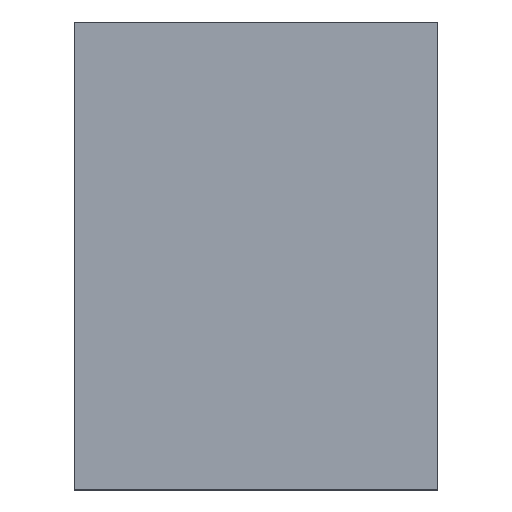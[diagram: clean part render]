
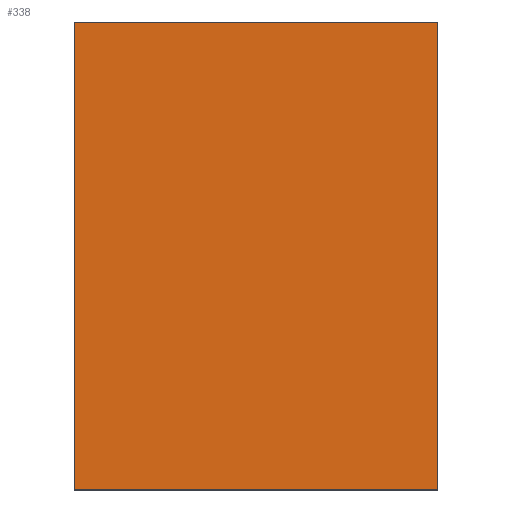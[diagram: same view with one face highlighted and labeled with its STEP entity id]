
A CAD part, top view. The second image highlights one B-rep face of the part: STEP entity #338.
In plain terms, the highlighted planar face has unit normal (0, 0, 1).
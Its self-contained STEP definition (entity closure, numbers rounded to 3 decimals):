
#24 = VERTEX_POINT('',#25);
#25 = CARTESIAN_POINT('',(-700.,-900.,1300.));
#32 = PLANE('',#33);
#33 = AXIS2_PLACEMENT_3D('',#34,#35,#36);
#34 = CARTESIAN_POINT('',(-700.,-900.,1290.));
#35 = DIRECTION('',(1.,0.,-0.));
#36 = DIRECTION('',(0.,0.,1.));
#44 = PLANE('',#45);
#45 = AXIS2_PLACEMENT_3D('',#46,#47,#48);
#46 = CARTESIAN_POINT('',(-700.,-900.,1290.));
#47 = DIRECTION('',(-0.,1.,0.));
#48 = DIRECTION('',(0.,0.,1.));
#85 = VERTEX_POINT('',#86);
#86 = CARTESIAN_POINT('',(-700.,900.,1300.));
#100 = PLANE('',#101);
#101 = AXIS2_PLACEMENT_3D('',#102,#103,#104);
#102 = CARTESIAN_POINT('',(-700.,900.,1290.));
#103 = DIRECTION('',(-0.,1.,0.));
#104 = DIRECTION('',(0.,0.,1.));
#112 = EDGE_CURVE('',#24,#85,#113,.T.);
#113 = SURFACE_CURVE('',#114,(#118,#125),.PCURVE_S1.);
#114 = LINE('',#115,#116);
#115 = CARTESIAN_POINT('',(-700.,-900.,1300.));
#116 = VECTOR('',#117,1.);
#117 = DIRECTION('',(-0.,1.,0.));
#118 = PCURVE('',#32,#119);
#119 = DEFINITIONAL_REPRESENTATION('',(#120),#124);
#120 = LINE('',#121,#122);
#121 = CARTESIAN_POINT('',(10.,0.));
#122 = VECTOR('',#123,1.);
#123 = DIRECTION('',(0.,-1.));
#124 = ( GEOMETRIC_REPRESENTATION_CONTEXT(2) 
PARAMETRIC_REPRESENTATION_CONTEXT() REPRESENTATION_CONTEXT('2D SPACE',''
  ) );
#125 = PCURVE('',#126,#131);
#126 = PLANE('',#127);
#127 = AXIS2_PLACEMENT_3D('',#128,#129,#130);
#128 = CARTESIAN_POINT('',(-700.,-900.,1300.));
#129 = DIRECTION('',(0.,0.,1.));
#130 = DIRECTION('',(1.,0.,-0.));
#131 = DEFINITIONAL_REPRESENTATION('',(#132),#136);
#132 = LINE('',#133,#134);
#133 = CARTESIAN_POINT('',(0.,0.));
#134 = VECTOR('',#135,1.);
#135 = DIRECTION('',(0.,1.));
#136 = ( GEOMETRIC_REPRESENTATION_CONTEXT(2) 
PARAMETRIC_REPRESENTATION_CONTEXT() REPRESENTATION_CONTEXT('2D SPACE',''
  ) );
#144 = VERTEX_POINT('',#145);
#145 = CARTESIAN_POINT('',(700.,-900.,1300.));
#152 = PLANE('',#153);
#153 = AXIS2_PLACEMENT_3D('',#154,#155,#156);
#154 = CARTESIAN_POINT('',(700.,-900.,1290.));
#155 = DIRECTION('',(1.,0.,-0.));
#156 = DIRECTION('',(0.,0.,1.));
#195 = VERTEX_POINT('',#196);
#196 = CARTESIAN_POINT('',(700.,900.,1300.));
#217 = EDGE_CURVE('',#144,#195,#218,.T.);
#218 = SURFACE_CURVE('',#219,(#223,#230),.PCURVE_S1.);
#219 = LINE('',#220,#221);
#220 = CARTESIAN_POINT('',(700.,-900.,1300.));
#221 = VECTOR('',#222,1.);
#222 = DIRECTION('',(-0.,1.,0.));
#223 = PCURVE('',#152,#224);
#224 = DEFINITIONAL_REPRESENTATION('',(#225),#229);
#225 = LINE('',#226,#227);
#226 = CARTESIAN_POINT('',(10.,0.));
#227 = VECTOR('',#228,1.);
#228 = DIRECTION('',(0.,-1.));
#229 = ( GEOMETRIC_REPRESENTATION_CONTEXT(2) 
PARAMETRIC_REPRESENTATION_CONTEXT() REPRESENTATION_CONTEXT('2D SPACE',''
  ) );
#230 = PCURVE('',#126,#231);
#231 = DEFINITIONAL_REPRESENTATION('',(#232),#236);
#232 = LINE('',#233,#234);
#233 = CARTESIAN_POINT('',(1400.,0.));
#234 = VECTOR('',#235,1.);
#235 = DIRECTION('',(0.,1.));
#236 = ( GEOMETRIC_REPRESENTATION_CONTEXT(2) 
PARAMETRIC_REPRESENTATION_CONTEXT() REPRESENTATION_CONTEXT('2D SPACE',''
  ) );
#263 = EDGE_CURVE('',#24,#144,#264,.T.);
#264 = SURFACE_CURVE('',#265,(#269,#276),.PCURVE_S1.);
#265 = LINE('',#266,#267);
#266 = CARTESIAN_POINT('',(-700.,-900.,1300.));
#267 = VECTOR('',#268,1.);
#268 = DIRECTION('',(1.,0.,-0.));
#269 = PCURVE('',#44,#270);
#270 = DEFINITIONAL_REPRESENTATION('',(#271),#275);
#271 = LINE('',#272,#273);
#272 = CARTESIAN_POINT('',(10.,0.));
#273 = VECTOR('',#274,1.);
#274 = DIRECTION('',(0.,1.));
#275 = ( GEOMETRIC_REPRESENTATION_CONTEXT(2) 
PARAMETRIC_REPRESENTATION_CONTEXT() REPRESENTATION_CONTEXT('2D SPACE',''
  ) );
#276 = PCURVE('',#126,#277);
#277 = DEFINITIONAL_REPRESENTATION('',(#278),#282);
#278 = LINE('',#279,#280);
#279 = CARTESIAN_POINT('',(0.,0.));
#280 = VECTOR('',#281,1.);
#281 = DIRECTION('',(1.,0.));
#282 = ( GEOMETRIC_REPRESENTATION_CONTEXT(2) 
PARAMETRIC_REPRESENTATION_CONTEXT() REPRESENTATION_CONTEXT('2D SPACE',''
  ) );
#310 = EDGE_CURVE('',#85,#195,#311,.T.);
#311 = SURFACE_CURVE('',#312,(#316,#323),.PCURVE_S1.);
#312 = LINE('',#313,#314);
#313 = CARTESIAN_POINT('',(-700.,900.,1300.));
#314 = VECTOR('',#315,1.);
#315 = DIRECTION('',(1.,0.,-0.));
#316 = PCURVE('',#100,#317);
#317 = DEFINITIONAL_REPRESENTATION('',(#318),#322);
#318 = LINE('',#319,#320);
#319 = CARTESIAN_POINT('',(10.,0.));
#320 = VECTOR('',#321,1.);
#321 = DIRECTION('',(0.,1.));
#322 = ( GEOMETRIC_REPRESENTATION_CONTEXT(2) 
PARAMETRIC_REPRESENTATION_CONTEXT() REPRESENTATION_CONTEXT('2D SPACE',''
  ) );
#323 = PCURVE('',#126,#324);
#324 = DEFINITIONAL_REPRESENTATION('',(#325),#329);
#325 = LINE('',#326,#327);
#326 = CARTESIAN_POINT('',(0.,1800.));
#327 = VECTOR('',#328,1.);
#328 = DIRECTION('',(1.,0.));
#329 = ( GEOMETRIC_REPRESENTATION_CONTEXT(2) 
PARAMETRIC_REPRESENTATION_CONTEXT() REPRESENTATION_CONTEXT('2D SPACE',''
  ) );
#338 = ADVANCED_FACE('',(#339),#126,.T.);
#339 = FACE_BOUND('',#340,.T.);
#340 = EDGE_LOOP('',(#341,#342,#343,#344));
#341 = ORIENTED_EDGE('',*,*,#112,.F.);
#342 = ORIENTED_EDGE('',*,*,#263,.T.);
#343 = ORIENTED_EDGE('',*,*,#217,.T.);
#344 = ORIENTED_EDGE('',*,*,#310,.F.);
